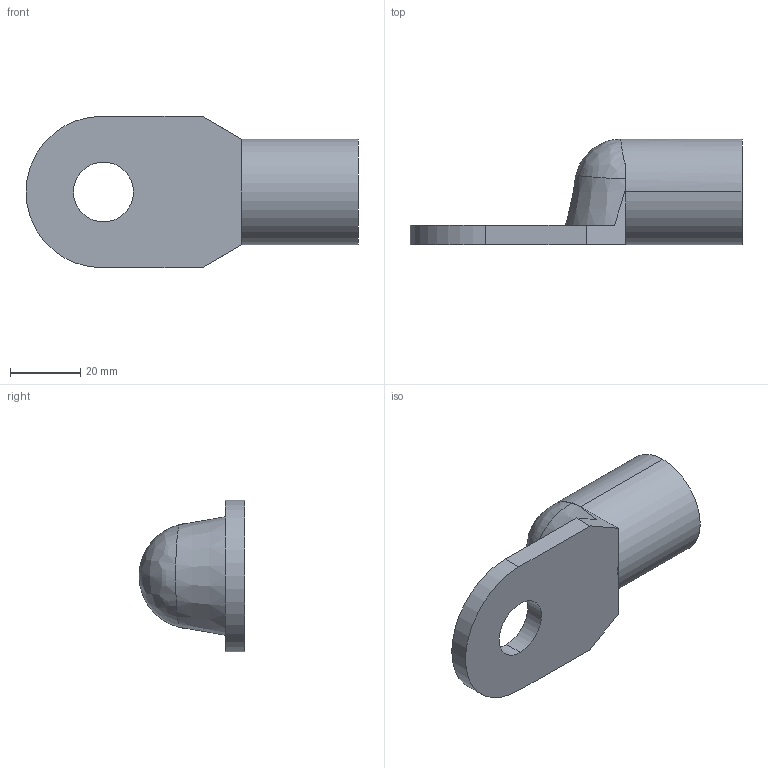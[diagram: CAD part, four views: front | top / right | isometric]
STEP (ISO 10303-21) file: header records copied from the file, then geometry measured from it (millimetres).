
FILE_DESCRIPTION (( 'STEP AP214' ), '1' );
FILE_NAME ('JG-300-16.STEP', '2020-04-24T13:05:28', ( '' ), ( '' ), 'SwSTEP 2.0', 'SolidWorks 2018', '' );
FILE_SCHEMA (( 'AUTOMOTIVE_DESIGN' ));
Length unit declared in the file: millimetre
Products named in the file (1): JG-300-16
Bounding box: 94.3 x 30 x 43 mm (x, y, z)
Volume: 27169.2 mm3; surface area: 12604.8 mm2
Topology: 1 solids, 1 shells, 23 faces, 53 edges, 33 vertices
Faces by surface type: plane 14, cylinder 7, cone 1, bspline 1
Entity records: 988 total; most frequent: CARTESIAN_POINT 420, DIRECTION 116, ORIENTED_EDGE 106, EDGE_CURVE 53, AXIS2_PLACEMENT_3D 44, VERTEX_POINT 33, VECTOR 28, LINE 28
